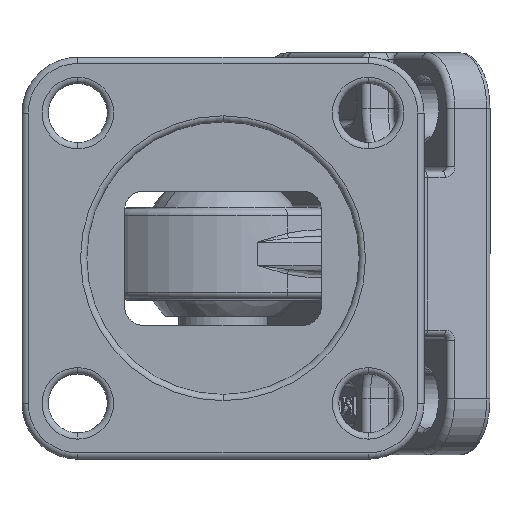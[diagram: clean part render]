
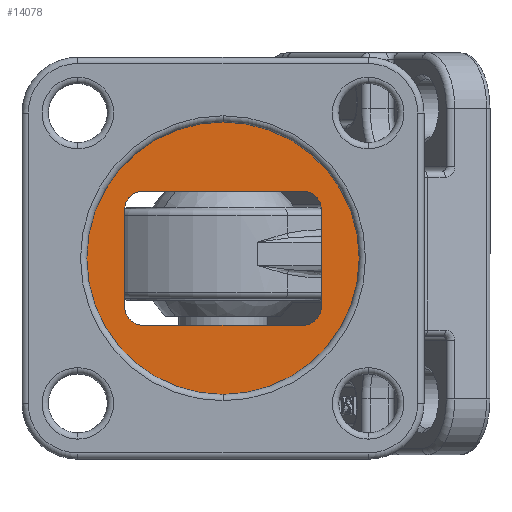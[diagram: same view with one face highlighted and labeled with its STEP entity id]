
A CAD part, front view. The second image highlights one B-rep face of the part: STEP entity #14078.
In plain terms, the highlighted planar face has unit normal (0, -1, 0).
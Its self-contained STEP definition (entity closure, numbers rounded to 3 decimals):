
#337 = EDGE_LOOP ( 'NONE', ( #14725, #18655 ) ) ;
#807 = CARTESIAN_POINT ( 'NONE',  ( 9., 5., -7.5 ) ) ;
#955 = LINE ( 'NONE', #29420, #24637 ) ;
#1021 = DIRECTION ( 'NONE',  ( 0., 0., 1. ) ) ;
#2130 = CARTESIAN_POINT ( 'NONE',  ( 0., 5., 15.25 ) ) ;
#3255 = CIRCLE ( 'NONE', #11327, 2. ) ;
#3788 = VERTEX_POINT ( 'NONE', #807 ) ;
#4739 = VERTEX_POINT ( 'NONE', #11519 ) ;
#5179 = EDGE_CURVE ( 'NONE', #3788, #8517, #11916, .T. ) ;
#5345 = CIRCLE ( 'NONE', #23289, 2. ) ;
#5613 = LINE ( 'NONE', #28878, #29346 ) ;
#5790 = CIRCLE ( 'NONE', #12109, 15.25 ) ;
#6031 = CARTESIAN_POINT ( 'NONE',  ( -9., 5., -5.5 ) ) ;
#6334 = EDGE_CURVE ( 'NONE', #16486, #20715, #5345, .T. ) ;
#7114 = CIRCLE ( 'NONE', #19510, 2. ) ;
#7614 = DIRECTION ( 'NONE',  ( 0., 1., 0. ) ) ;
#8072 = DIRECTION ( 'NONE',  ( 0., 1., 0. ) ) ;
#8349 = DIRECTION ( 'NONE',  ( 0., 0., -1. ) ) ;
#8517 = VERTEX_POINT ( 'NONE', #25099 ) ;
#8873 = CARTESIAN_POINT ( 'NONE',  ( -11., 5., 5.5 ) ) ;
#8918 = ORIENTED_EDGE ( 'NONE', *, *, #17487, .T. ) ;
#10100 = EDGE_CURVE ( 'NONE', #8517, #4739, #7114, .T. ) ;
#10470 = AXIS2_PLACEMENT_3D ( 'NONE', #28500, #14750, #1021 ) ;
#10571 = FACE_OUTER_BOUND ( 'NONE', #337, .T. ) ;
#10790 = VECTOR ( 'NONE', #12309, 1000. ) ;
#11327 = AXIS2_PLACEMENT_3D ( 'NONE', #21848, #8072, #24157 ) ;
#11519 = CARTESIAN_POINT ( 'NONE',  ( -11., 5., -5.5 ) ) ;
#11588 = DIRECTION ( 'NONE',  ( 0., 1., 0. ) ) ;
#11743 = ORIENTED_EDGE ( 'NONE', *, *, #24717, .T. ) ;
#11749 = EDGE_CURVE ( 'NONE', #26387, #20425, #27209, .T. ) ;
#11916 = LINE ( 'NONE', #27178, #22686 ) ;
#12109 = AXIS2_PLACEMENT_3D ( 'NONE', #21406, #7614, #23715 ) ;
#12309 = DIRECTION ( 'NONE',  ( 0., 0., 1. ) ) ;
#12534 = DIRECTION ( 'NONE',  ( 0., -1., 0. ) ) ;
#12835 = EDGE_CURVE ( 'NONE', #28922, #16486, #955, .T. ) ;
#13214 = CARTESIAN_POINT ( 'NONE',  ( 0., 5., -15.25 ) ) ;
#14078 = ADVANCED_FACE ( 'NONE', ( #10571, #22799 ), #26253, .T. ) ;
#14620 = ORIENTED_EDGE ( 'NONE', *, *, #12835, .T. ) ;
#14685 = CARTESIAN_POINT ( 'NONE',  ( -11., 5., -5.5 ) ) ;
#14725 = ORIENTED_EDGE ( 'NONE', *, *, #11749, .F. ) ;
#14750 = DIRECTION ( 'NONE',  ( 0., 1., 0. ) ) ;
#15442 = DIRECTION ( 'NONE',  ( 0., 0., -1. ) ) ;
#15474 = DIRECTION ( 'NONE',  ( 0., 1., 0. ) ) ;
#15505 = CARTESIAN_POINT ( 'NONE',  ( 9., 5., 5.5 ) ) ;
#15683 = DIRECTION ( 'NONE',  ( 1., 0., 0. ) ) ;
#15705 = EDGE_CURVE ( 'NONE', #20425, #26387, #5790, .T. ) ;
#16486 = VERTEX_POINT ( 'NONE', #19973 ) ;
#16896 = EDGE_CURVE ( 'NONE', #28288, #3788, #3255, .T. ) ;
#17218 = CARTESIAN_POINT ( 'NONE',  ( 11., 5., 5.5 ) ) ;
#17487 = EDGE_CURVE ( 'NONE', #4739, #24615, #29129, .T. ) ;
#18655 = ORIENTED_EDGE ( 'NONE', *, *, #15705, .F. ) ;
#19104 = CARTESIAN_POINT ( 'NONE',  ( 11., 5., -5.5 ) ) ;
#19510 = AXIS2_PLACEMENT_3D ( 'NONE', #6031, #22137, #8349 ) ;
#19715 = CARTESIAN_POINT ( 'NONE',  ( -9., 5., 7.5 ) ) ;
#19973 = CARTESIAN_POINT ( 'NONE',  ( 9., 5., 7.5 ) ) ;
#20425 = VERTEX_POINT ( 'NONE', #13214 ) ;
#20715 = VERTEX_POINT ( 'NONE', #17218 ) ;
#21406 = CARTESIAN_POINT ( 'NONE',  ( 0., 5., 0. ) ) ;
#21457 = ORIENTED_EDGE ( 'NONE', *, *, #6334, .T. ) ;
#21848 = CARTESIAN_POINT ( 'NONE',  ( 9., 5., -5.5 ) ) ;
#22137 = DIRECTION ( 'NONE',  ( 0., 1., 0. ) ) ;
#22686 = VECTOR ( 'NONE', #28174, 1000. ) ;
#22799 = FACE_BOUND ( 'NONE', #28737, .T. ) ;
#22935 = ORIENTED_EDGE ( 'NONE', *, *, #16896, .T. ) ;
#23289 = AXIS2_PLACEMENT_3D ( 'NONE', #15505, #15474, #15442 ) ;
#23715 = DIRECTION ( 'NONE',  ( 0., 0., 1. ) ) ;
#24157 = DIRECTION ( 'NONE',  ( 0., 0., -1. ) ) ;
#24517 = EDGE_CURVE ( 'NONE', #20715, #28288, #5613, .T. ) ;
#24615 = VERTEX_POINT ( 'NONE', #8873 ) ;
#24637 = VECTOR ( 'NONE', #15683, 1000. ) ;
#24717 = EDGE_CURVE ( 'NONE', #24615, #28922, #26493, .T. ) ;
#25094 = AXIS2_PLACEMENT_3D ( 'NONE', #25357, #11588, #27662 ) ;
#25099 = CARTESIAN_POINT ( 'NONE',  ( -9., 5., -7.5 ) ) ;
#25357 = CARTESIAN_POINT ( 'NONE',  ( -9., 5., 5.5 ) ) ;
#26165 = CARTESIAN_POINT ( 'NONE',  ( 15.25, 5., 0. ) ) ;
#26204 = ORIENTED_EDGE ( 'NONE', *, *, #5179, .T. ) ;
#26253 = PLANE ( 'NONE',  #26498 ) ;
#26387 = VERTEX_POINT ( 'NONE', #2130 ) ;
#26493 = CIRCLE ( 'NONE', #25094, 2. ) ;
#26498 = AXIS2_PLACEMENT_3D ( 'NONE', #26165, #12534, #28557 ) ;
#26783 = DIRECTION ( 'NONE',  ( 0., 0., -1. ) ) ;
#27178 = CARTESIAN_POINT ( 'NONE',  ( 0., 5., -7.5 ) ) ;
#27209 = CIRCLE ( 'NONE', #10470, 15.25 ) ;
#27662 = DIRECTION ( 'NONE',  ( 0., 0., -1. ) ) ;
#27887 = ORIENTED_EDGE ( 'NONE', *, *, #24517, .T. ) ;
#28174 = DIRECTION ( 'NONE',  ( -1., 0., 0. ) ) ;
#28288 = VERTEX_POINT ( 'NONE', #19104 ) ;
#28500 = CARTESIAN_POINT ( 'NONE',  ( 0., 5., 0. ) ) ;
#28557 = DIRECTION ( 'NONE',  ( 0., 0., -1. ) ) ;
#28737 = EDGE_LOOP ( 'NONE', ( #22935, #26204, #29067, #8918, #11743, #14620, #21457, #27887 ) ) ;
#28878 = CARTESIAN_POINT ( 'NONE',  ( 11., 5., -5.5 ) ) ;
#28922 = VERTEX_POINT ( 'NONE', #19715 ) ;
#29067 = ORIENTED_EDGE ( 'NONE', *, *, #10100, .T. ) ;
#29129 = LINE ( 'NONE', #14685, #10790 ) ;
#29346 = VECTOR ( 'NONE', #26783, 1000. ) ;
#29420 = CARTESIAN_POINT ( 'NONE',  ( 0., 5., 7.5 ) ) ;
